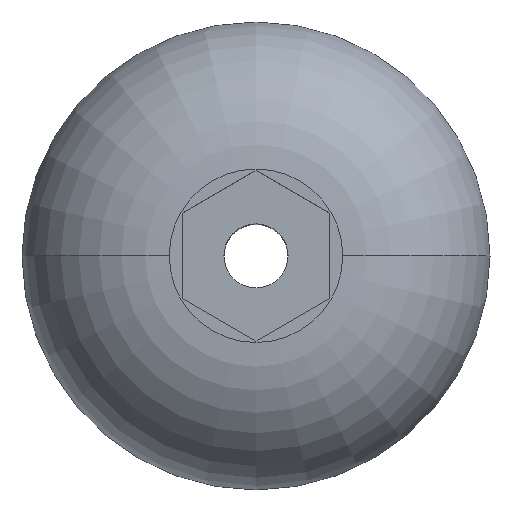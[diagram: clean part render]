
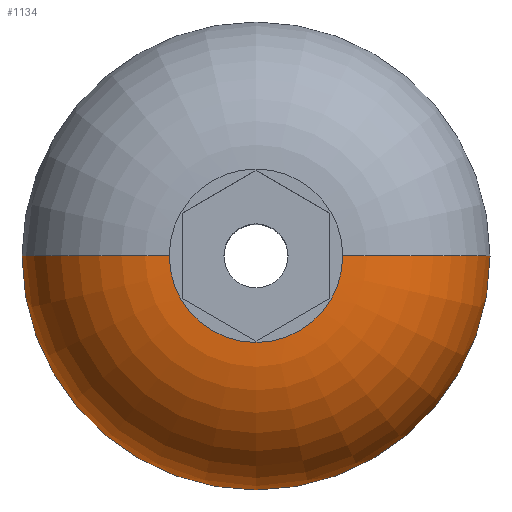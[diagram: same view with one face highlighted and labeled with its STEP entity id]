
A CAD part, top view. The second image highlights one B-rep face of the part: STEP entity #1134.
In plain terms, the highlighted toroidal (fillet/blend) face has major radius 1.76 mm and minor radius 3 mm.
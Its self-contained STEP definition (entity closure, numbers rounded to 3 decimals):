
#5 = CARTESIAN_POINT ( 'NONE',  ( 4.75, 0., 0. ) ) ;
#74 = EDGE_CURVE ( 'NONE', #93, #1109, #484, .T. ) ;
#93 = VERTEX_POINT ( 'NONE', #5 ) ;
#122 = AXIS2_PLACEMENT_3D ( 'NONE', #834, #925, #1033 ) ;
#128 = ORIENTED_EDGE ( 'NONE', *, *, #778, .T. ) ;
#172 = AXIS2_PLACEMENT_3D ( 'NONE', #425, #1097, #813 ) ;
#223 = CARTESIAN_POINT ( 'NONE',  ( 0., 0., -0.25 ) ) ;
#225 = EDGE_CURVE ( 'NONE', #522, #1224, #883, .T. ) ;
#248 = DIRECTION ( 'NONE',  ( 1., 0., 0. ) ) ;
#253 = CIRCLE ( 'NONE', #300, 1.76 ) ;
#300 = AXIS2_PLACEMENT_3D ( 'NONE', #1204, #829, #248 ) ;
#425 = CARTESIAN_POINT ( 'NONE',  ( -1.76, 0., -0.25 ) ) ;
#484 = CIRCLE ( 'NONE', #1125, 3. ) ;
#492 = ORIENTED_EDGE ( 'NONE', *, *, #225, .F. ) ;
#502 = ORIENTED_EDGE ( 'NONE', *, *, #574, .F. ) ;
#503 = ORIENTED_EDGE ( 'NONE', *, *, #74, .T. ) ;
#522 = VERTEX_POINT ( 'NONE', #1114 ) ;
#572 = DIRECTION ( 'NONE',  ( 0., -1., 0. ) ) ;
#574 = EDGE_CURVE ( 'NONE', #1224, #1109, #253, .T. ) ;
#576 = CIRCLE ( 'NONE', #122, 4.75 ) ;
#629 = DIRECTION ( 'NONE',  ( 0., 0., 1. ) ) ;
#649 = TOROIDAL_SURFACE ( 'NONE', #1096, 1.76, 3. ) ;
#761 = CARTESIAN_POINT ( 'NONE',  ( 1.76, 0., -0.25 ) ) ;
#778 = EDGE_CURVE ( 'NONE', #522, #93, #576, .T. ) ;
#791 = FACE_OUTER_BOUND ( 'NONE', #889, .T. ) ;
#792 = CARTESIAN_POINT ( 'NONE',  ( 1.76, 0., 2.75 ) ) ;
#813 = DIRECTION ( 'NONE',  ( -1., 0., 0. ) ) ;
#829 = DIRECTION ( 'NONE',  ( 0., 0., 1. ) ) ;
#834 = CARTESIAN_POINT ( 'NONE',  ( 0., 0., 0. ) ) ;
#883 = CIRCLE ( 'NONE', #172, 3. ) ;
#889 = EDGE_LOOP ( 'NONE', ( #492, #128, #503, #502 ) ) ;
#919 = CARTESIAN_POINT ( 'NONE',  ( -1.76, 0., 2.75 ) ) ;
#925 = DIRECTION ( 'NONE',  ( 0., 0., 1. ) ) ;
#1000 = DIRECTION ( 'NONE',  ( 1., 0., 0. ) ) ;
#1033 = DIRECTION ( 'NONE',  ( 1., 0., 0. ) ) ;
#1096 = AXIS2_PLACEMENT_3D ( 'NONE', #223, #629, #1000 ) ;
#1097 = DIRECTION ( 'NONE',  ( 0., 1., 0. ) ) ;
#1109 = VERTEX_POINT ( 'NONE', #792 ) ;
#1114 = CARTESIAN_POINT ( 'NONE',  ( -4.75, 0., 0. ) ) ;
#1125 = AXIS2_PLACEMENT_3D ( 'NONE', #761, #572, #1225 ) ;
#1134 = ADVANCED_FACE ( 'NONE', ( #791 ), #649, .T. ) ;
#1204 = CARTESIAN_POINT ( 'NONE',  ( 0., 0., 2.75 ) ) ;
#1224 = VERTEX_POINT ( 'NONE', #919 ) ;
#1225 = DIRECTION ( 'NONE',  ( 0., 0., -1. ) ) ;
